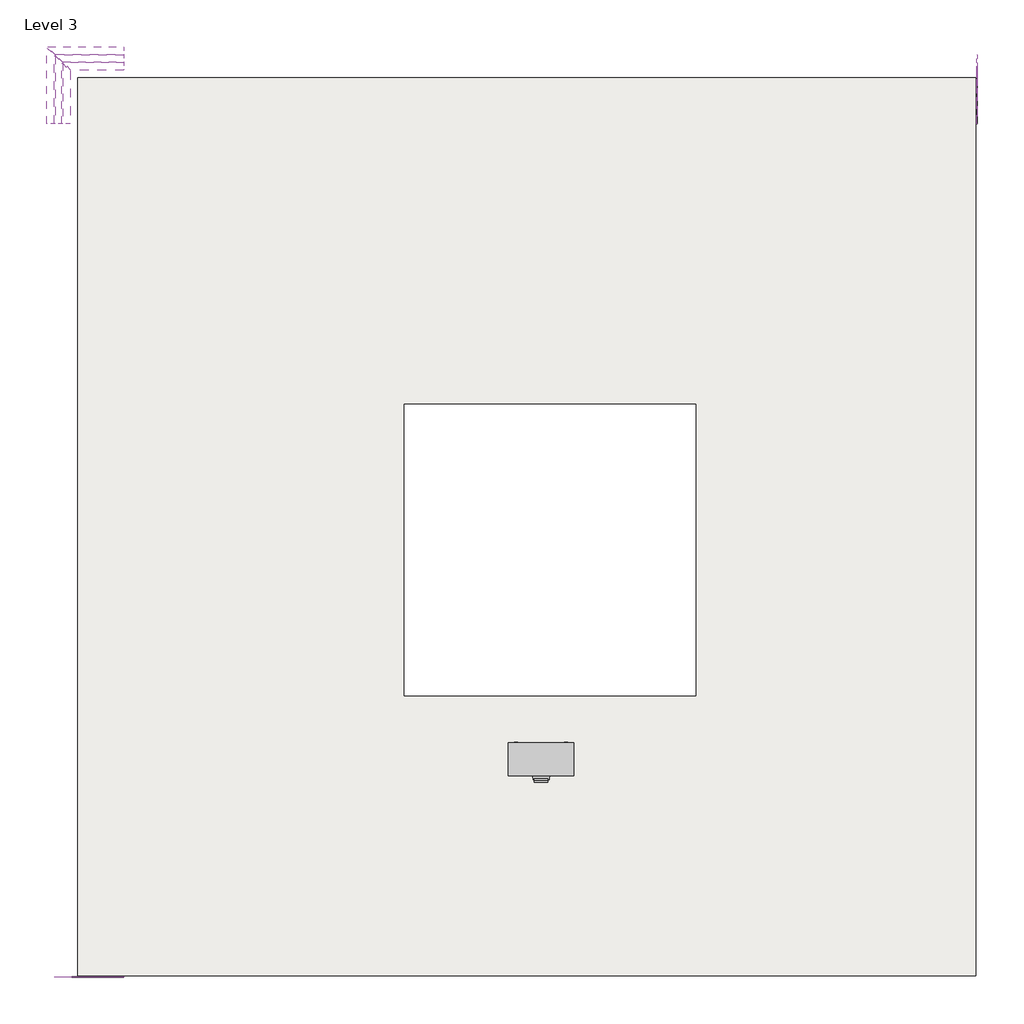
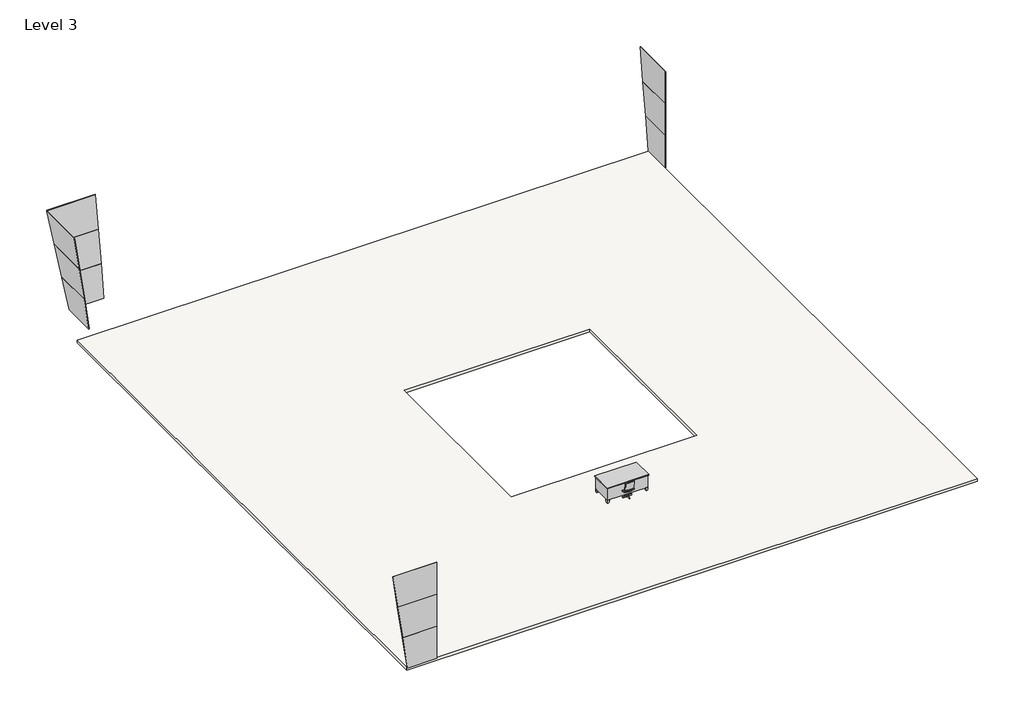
# One storey, incomplete: 12 plates, 2 furniture elements, 1 slab.
"""IFC4 building model written with IfcOpenShell, lengths in millimetres."""

from ifc_helpers import new_model, si_unit, frame, origin, place, context, project, spatial, polyline, outline, extrude, transform, mapped, element, save
from components import chair_desk_chair_desk_ccc35c8f, furniture_2fc54265, system_panel_glazed_c7816244, system_panel_glazed_f30f126a, system_panel_glazed_4e7b55d5, system_panel_glazed_8f495764, system_panel_glazed_ee053642, system_panel_glazed_3bf20684, system_panel_glazed_068a52bf, system_panel_glazed_324cedf0, system_panel_glazed_785e68f1, system_panel_glazed_1f5c7d6d, system_panel_glazed_f9c12b73, system_panel_glazed_a1e5ac54

model = new_model("IFC4")

# Units and contexts
model_context = context("Model", 3, world=origin())
ifc_project = project(units=[si_unit("LENGTHUNIT", "METRE", prefix="MILLI")], contexts=[model_context])

# Site, building, storey
site = spatial("IfcSite", under=ifc_project)
building = spatial("IfcBuilding", under=site)
storey = spatial("IfcBuildingStorey", under=building, Name="Level 3", Elevation=9144.0)

# Furniture
placement = place(None, origin())
chair_desk_chair_desk_shape = chair_desk_chair_desk_ccc35c8f(model_context)
element("IfcFurniture", 1, ObjectType="Chair-Desk : Chair-Desk", at=placement, inside=storey, context=model_context, shape_type="MappedRepresentation", body=[
    mapped(chair_desk_chair_desk_shape, transform((-3928.2026957, -6947.9708988, 9144.0), x_axis=(1.0, 0.0, 0.0), y_axis=(0.0, 1.0, 0.0), z_axis=(0.0, 0.0, 1.0))),
])
furniture_shape = furniture_2fc54265(model_context)
element("IfcFurniture", 2, ObjectType="Desk : 72\" x 36\"", at=placement, inside=storey, context=model_context, shape_type="MappedRepresentation", body=[
    mapped(furniture_shape, transform((-4842.6026957, -6820.9708988, 9144.0), x_axis=(1.0, 0.0, 0.0), y_axis=(0.0, 1.0, 0.0), z_axis=(0.0, 0.0, 1.0))),
])

# Plates
system_panel_glazed_shape = system_panel_glazed_c7816244(model_context)
element("IfcPlate", 3, ObjectType="System Panel : Glazed", at=placement, inside=storey, context=model_context, shape_type="MappedRepresentation", body=[
    mapped(system_panel_glazed_shape, transform((-16734.3841159, 13341.9465869, 10559.2565258), x_axis=(1.0, 0.0, 0.0), y_axis=(0.0, 0.9898065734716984, -0.1424182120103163), z_axis=(0.0, 0.1424182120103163, 0.9898065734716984))),
])
system_panel_glazed_2_shape = system_panel_glazed_f30f126a(model_context)
element("IfcPlate", 4, ObjectType="System Panel : Glazed", at=placement, inside=storey, context=model_context, shape_type="MappedRepresentation", body=[
    mapped(system_panel_glazed_2_shape, transform((-16842.9067935, 13558.991942, 12067.7217438), x_axis=(1.0, 0.0, 0.0), y_axis=(0.0, 0.9898065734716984, -0.1424182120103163), z_axis=(0.0, 0.1424182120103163, 0.9898065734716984))),
])
system_panel_glazed_3_shape = system_panel_glazed_4e7b55d5(model_context)
element("IfcPlate", 5, ObjectType="System Panel : Glazed", at=placement, inside=storey, context=model_context, shape_type="MappedRepresentation", body=[
    mapped(system_panel_glazed_3_shape, transform((-16951.429471, 13776.0372971, 13576.1869617), x_axis=(1.0, 0.0, 0.0), y_axis=(0.0, 0.9898065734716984, -0.1424182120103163), z_axis=(0.0, 0.1424182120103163, 0.9898065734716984))),
])
system_panel_glazed_4_shape = system_panel_glazed_8f495764(model_context)
element("IfcPlate", 6, ObjectType="System Panel : Glazed", at=placement, inside=storey, context=model_context, shape_type="MappedRepresentation", body=[
    mapped(system_panel_glazed_4_shape, transform((-17385.5201814, 12690.8105216, 10559.2565258), x_axis=(0.0, 1.0, 0.0), y_axis=(-0.9898065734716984, 0.0, -0.1424182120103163), z_axis=(-0.1424182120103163, 0.0, 0.9898065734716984))),
])
system_panel_glazed_5_shape = system_panel_glazed_ee053642(model_context)
element("IfcPlate", 7, ObjectType="System Panel : Glazed", at=placement, inside=storey, context=model_context, shape_type="MappedRepresentation", body=[
    mapped(system_panel_glazed_5_shape, transform((-17602.5655365, 12799.3331992, 12067.7217438), x_axis=(0.0, 1.0, 0.0), y_axis=(-0.9898065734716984, 0.0, -0.1424182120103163), z_axis=(-0.1424182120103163, 0.0, 0.9898065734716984))),
])
system_panel_glazed_6_shape = system_panel_glazed_3bf20684(model_context)
element("IfcPlate", 8, ObjectType="System Panel : Glazed", at=placement, inside=storey, context=model_context, shape_type="MappedRepresentation", body=[
    mapped(system_panel_glazed_6_shape, transform((-17819.6108916, 12907.8558767, 13576.1869617), x_axis=(0.0, 1.0, 0.0), y_axis=(-0.9898065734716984, 0.0, -0.1424182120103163), z_axis=(-0.1424182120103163, 0.0, 0.9898065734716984))),
])
system_panel_glazed_7_shape = system_panel_glazed_068a52bf(model_context)
element("IfcPlate", 9, ObjectType="System Panel : Glazed", at=placement, inside=storey, context=model_context, shape_type="MappedRepresentation", body=[
    mapped(system_panel_glazed_7_shape, transform((8517.7973043, 12590.1111154, 9144.0), x_axis=(0.0, -1.0, 0.0), y_axis=(1.0, 0.0, 0.0), z_axis=(0.0, 0.0, 1.0))),
])
system_panel_glazed_8_shape = system_panel_glazed_324cedf0(model_context)
element("IfcPlate", 10, ObjectType="System Panel : Glazed", at=placement, inside=storey, context=model_context, shape_type="MappedRepresentation", body=[
    mapped(system_panel_glazed_8_shape, transform((8517.7973043, 12699.7514032, 10668.0), x_axis=(0.0, -1.0, 0.0), y_axis=(1.0, 0.0, 0.0), z_axis=(0.0, 0.0, 1.0))),
])
system_panel_glazed_9_shape = system_panel_glazed_785e68f1(model_context)
element("IfcPlate", 11, ObjectType="System Panel : Glazed", at=placement, inside=storey, context=model_context, shape_type="MappedRepresentation", body=[
    mapped(system_panel_glazed_9_shape, transform((8517.7973043, 12809.3916909, 12192.0), x_axis=(0.0, -1.0, 0.0), y_axis=(1.0, 0.0, 0.0), z_axis=(0.0, 0.0, 1.0))),
])
system_panel_glazed_10_shape = system_panel_glazed_1f5c7d6d(model_context)
element("IfcPlate", 12, ObjectType="System Panel : Glazed", at=placement, inside=storey, context=model_context, shape_type="MappedRepresentation", body=[
    mapped(system_panel_glazed_10_shape, transform((-16633.6847101, -12561.3708988, 9144.0), x_axis=(-1.0, 0.0, 0.0), y_axis=(0.0, -1.0, 0.0), z_axis=(0.0, 0.0, 1.0))),
])
system_panel_glazed_11_shape = system_panel_glazed_f9c12b73(model_context)
element("IfcPlate", 13, ObjectType="System Panel : Glazed", at=placement, inside=storey, context=model_context, shape_type="MappedRepresentation", body=[
    mapped(system_panel_glazed_11_shape, transform((-16743.3249978, -12561.3708988, 10668.0), x_axis=(-1.0, 0.0, 0.0), y_axis=(0.0, -1.0, 0.0), z_axis=(0.0, 0.0, 1.0))),
])
system_panel_glazed_12_shape = system_panel_glazed_a1e5ac54(model_context)
element("IfcPlate", 14, ObjectType="System Panel : Glazed", at=placement, inside=storey, context=model_context, shape_type="MappedRepresentation", body=[
    mapped(system_panel_glazed_12_shape, transform((-16852.9652856, -12561.3708988, 12192.0), x_axis=(-1.0, 0.0, 0.0), y_axis=(0.0, -1.0, 0.0), z_axis=(0.0, 0.0, 1.0))),
])

# Slab
element("IfcSlab", 15, ObjectType="3\" LW Concrete on 2\" Metal Deck", at=placement, inside=storey, context=model_context, shape_type="SweptSolid", body=[
    extrude(outline(polyline([(-17181.8861489, -12561.3708988), (-17181.8861489, 13138.3125544), (8517.7973043, 13138.3125544), (8517.7973043, -12561.3708988), (-17181.8861489, -12561.3708988)]), holes=[polyline([(-7844.5651957, 3800.9916012), (-7844.5651957, -4539.7333988), (496.1598043, -4539.7333988), (496.1598043, 3800.9916012), (-7844.5651957, 3800.9916012)])]), frame((0.0, 0.0, 9017.0), z_axis=(0.0, 0.0, 1.0), x_axis=(1.0, 0.0, 0.0)), (0.0, 0.0, 1.0), 127.0),
])

save(model, "model.ifc")
